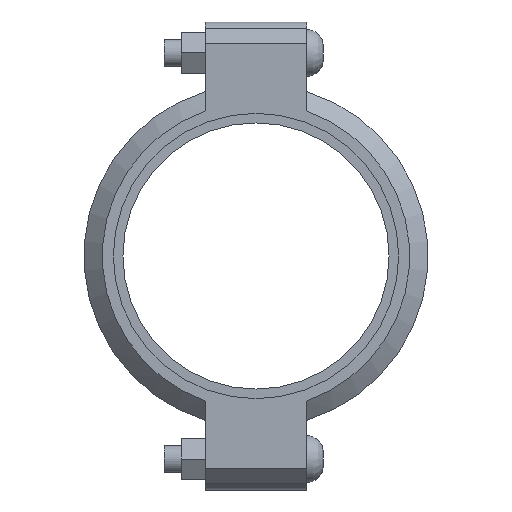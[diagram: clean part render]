
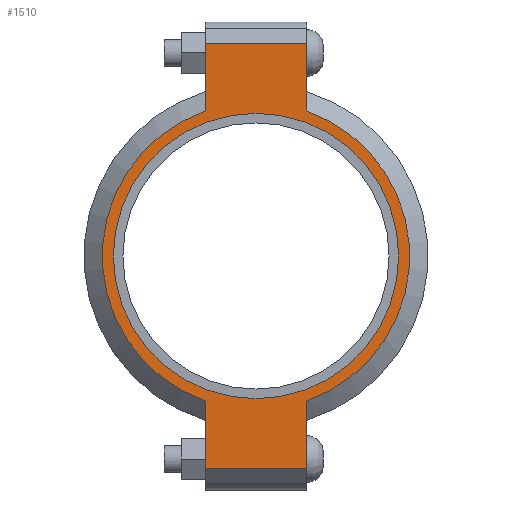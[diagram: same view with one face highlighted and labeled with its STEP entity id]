
A CAD part, left-side view. The second image highlights one B-rep face of the part: STEP entity #1510.
In plain terms, the highlighted planar face has unit normal (-1, 0, 0) as drawn and (0, 0, 1) by its records, which use the part's own axes.
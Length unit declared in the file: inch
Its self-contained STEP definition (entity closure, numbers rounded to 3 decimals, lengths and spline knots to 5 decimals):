
#134=LINE('',#2644,#227);
#142=LINE('',#2680,#235);
#149=LINE('',#2701,#242);
#158=LINE('',#2733,#251);
#159=LINE('',#2737,#252);
#160=LINE('',#2739,#253);
#227=VECTOR('',#2164,0.3937);
#235=VECTOR('',#2180,0.3937);
#242=VECTOR('',#2199,0.3937);
#251=VECTOR('',#2224,0.3937);
#252=VECTOR('',#2229,0.3937);
#253=VECTOR('',#2230,0.3937);
#309=FACE_BOUND('',#487,.T.);
#381=FACE_OUTER_BOUND('',#486,.T.);
#486=EDGE_LOOP('',(#1251,#1252,#1253,#1254,#1255,#1256,#1257,#1258));
#487=EDGE_LOOP('',(#1259));
#559=CIRCLE('',#1738,3.25);
#585=CIRCLE('',#1797,3.5);
#586=CIRCLE('',#1798,3.5);
#651=VERTEX_POINT('',#2460);
#694=VERTEX_POINT('',#2641);
#695=VERTEX_POINT('',#2643);
#706=VERTEX_POINT('',#2675);
#707=VERTEX_POINT('',#2679);
#714=VERTEX_POINT('',#2698);
#715=VERTEX_POINT('',#2700);
#725=VERTEX_POINT('',#2736);
#726=VERTEX_POINT('',#2738);
#807=EDGE_CURVE('',#651,#651,#559,.T.);
#868=EDGE_CURVE('',#695,#694,#134,.T.);
#882=EDGE_CURVE('',#707,#706,#142,.T.);
#892=EDGE_CURVE('',#715,#714,#149,.T.);
#907=EDGE_CURVE('',#707,#694,#158,.T.);
#908=EDGE_CURVE('',#706,#715,#585,.T.);
#909=EDGE_CURVE('',#725,#714,#159,.T.);
#910=EDGE_CURVE('',#725,#726,#160,.T.);
#911=EDGE_CURVE('',#726,#695,#586,.T.);
#1251=ORIENTED_EDGE('',*,*,#907,.F.);
#1252=ORIENTED_EDGE('',*,*,#882,.T.);
#1253=ORIENTED_EDGE('',*,*,#908,.T.);
#1254=ORIENTED_EDGE('',*,*,#892,.T.);
#1255=ORIENTED_EDGE('',*,*,#909,.F.);
#1256=ORIENTED_EDGE('',*,*,#910,.T.);
#1257=ORIENTED_EDGE('',*,*,#911,.T.);
#1258=ORIENTED_EDGE('',*,*,#868,.T.);
#1259=ORIENTED_EDGE('',*,*,#807,.T.);
#1352=PLANE('',#1796);
#1510=ADVANCED_FACE('',(#381,#309),#1352,.T.);
#1738=AXIS2_PLACEMENT_3D('',#2462,#2040,#2041);
#1796=AXIS2_PLACEMENT_3D('',#2734,#2225,#2226);
#1797=AXIS2_PLACEMENT_3D('',#2735,#2227,#2228);
#1798=AXIS2_PLACEMENT_3D('',#2740,#2231,#2232);
#2040=DIRECTION('center_axis',(0.,0.,-1.));
#2041=DIRECTION('ref_axis',(1.,0.,0.));
#2164=DIRECTION('',(1.,0.,0.));
#2180=DIRECTION('',(-1.,0.,0.));
#2199=DIRECTION('',(-1.,0.,0.));
#2224=DIRECTION('',(0.,-1.,0.));
#2225=DIRECTION('center_axis',(0.,0.,1.));
#2226=DIRECTION('ref_axis',(-1.,0.,0.));
#2227=DIRECTION('center_axis',(0.,0.,1.));
#2228=DIRECTION('ref_axis',(1.,0.,0.));
#2229=DIRECTION('',(0.,1.,0.));
#2230=DIRECTION('',(1.,0.,0.));
#2231=DIRECTION('center_axis',(0.,0.,1.));
#2232=DIRECTION('ref_axis',(1.,0.,0.));
#2460=CARTESIAN_POINT('',(-3.25,0.,1.04));
#2462=CARTESIAN_POINT('Origin',(0.,0.,1.04));
#2641=CARTESIAN_POINT('',(4.83,-1.156,1.04));
#2643=CARTESIAN_POINT('',(3.30358,-1.156,1.04));
#2644=CARTESIAN_POINT('',(5.33,-1.156,1.04));
#2675=CARTESIAN_POINT('',(3.30358,1.156,1.04));
#2679=CARTESIAN_POINT('',(4.83,1.156,1.04));
#2680=CARTESIAN_POINT('',(-5.33,1.156,1.04));
#2698=CARTESIAN_POINT('',(-4.83,1.156,1.04));
#2700=CARTESIAN_POINT('',(-3.30358,1.156,1.04));
#2701=CARTESIAN_POINT('',(-5.33,1.156,1.04));
#2733=CARTESIAN_POINT('',(4.83,-0.578,1.04));
#2734=CARTESIAN_POINT('Origin',(0.,0.,
1.04));
#2735=CARTESIAN_POINT('Origin',(0.,0.,1.04));
#2736=CARTESIAN_POINT('',(-4.83,-1.156,1.04));
#2737=CARTESIAN_POINT('',(-4.83,0.578,1.04));
#2738=CARTESIAN_POINT('',(-3.30358,-1.156,1.04));
#2739=CARTESIAN_POINT('',(5.33,-1.156,1.04));
#2740=CARTESIAN_POINT('Origin',(0.,0.,1.04));
